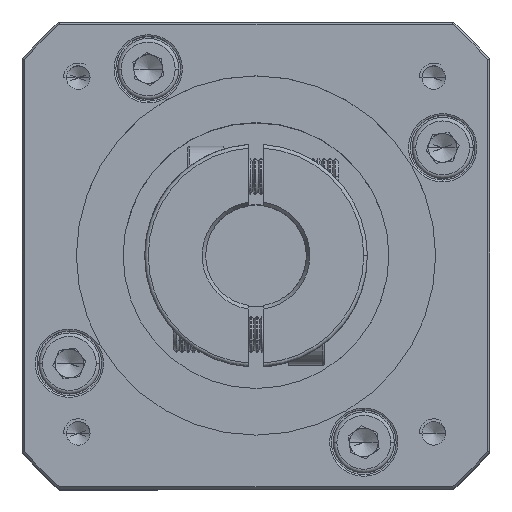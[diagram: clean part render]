
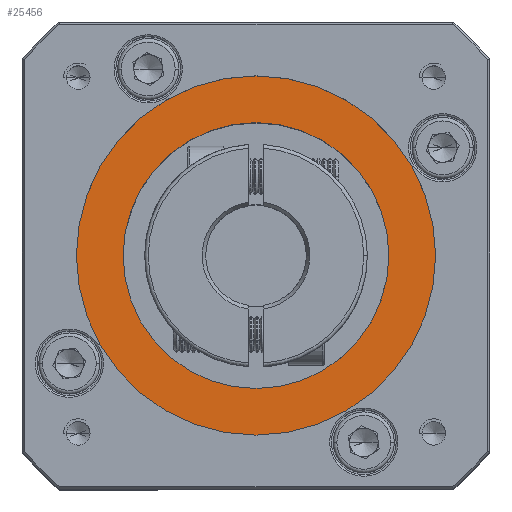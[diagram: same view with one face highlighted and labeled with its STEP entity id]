
A CAD part, top view. The second image highlights one B-rep face of the part: STEP entity #25456.
In plain terms, the highlighted planar face has unit normal (0, 0, 1).
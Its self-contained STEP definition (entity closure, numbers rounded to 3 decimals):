
#3818 = DIRECTION ( 'NONE',  ( 1., 0., 0. ) ) ;
#3939 = FACE_BOUND ( 'NONE', #79573, .T. ) ;
#5807 = VERTEX_POINT ( 'NONE', #75125 ) ;
#7873 = DIRECTION ( 'NONE',  ( 1., 0., 0. ) ) ;
#15227 = CIRCLE ( 'NONE', #38954, 25. ) ;
#19352 = DIRECTION ( 'NONE',  ( 0., 0., -1. ) ) ;
#20351 = EDGE_CURVE ( 'NONE', #5807, #53913, #27590, .T. ) ;
#25456 = ADVANCED_FACE ( 'NONE', ( #45073, #3939 ), #36142, .T. ) ;
#27590 = CIRCLE ( 'NONE', #71049, 18.5 ) ;
#33677 = VERTEX_POINT ( 'NONE', #48621 ) ;
#36062 = DIRECTION ( 'NONE',  ( 0., 0., -1. ) ) ;
#36142 = PLANE ( 'NONE',  #62368 ) ;
#38954 = AXIS2_PLACEMENT_3D ( 'NONE', #106247, #57124, #7873 ) ;
#40611 = ORIENTED_EDGE ( 'NONE', *, *, #20351, .T. ) ;
#41539 = ORIENTED_EDGE ( 'NONE', *, *, #105131, .T. ) ;
#43687 = DIRECTION ( 'NONE',  ( 0., 0., 1. ) ) ;
#45073 = FACE_OUTER_BOUND ( 'NONE', #93962, .T. ) ;
#48621 = CARTESIAN_POINT ( 'NONE',  ( 40.384, 13.876, 148.65 ) ) ;
#53027 = DIRECTION ( 'NONE',  ( 0., 0., 1. ) ) ;
#53913 = VERTEX_POINT ( 'NONE', #70907 ) ;
#54060 = CARTESIAN_POINT ( 'NONE',  ( -9.616, 13.876, 148.65 ) ) ;
#56695 = AXIS2_PLACEMENT_3D ( 'NONE', #92780, #43687, #101107 ) ;
#57124 = DIRECTION ( 'NONE',  ( 0., 0., 1. ) ) ;
#57513 = EDGE_CURVE ( 'NONE', #53913, #5807, #83032, .T. ) ;
#59107 = ORIENTED_EDGE ( 'NONE', *, *, #92338, .T. ) ;
#60614 = VERTEX_POINT ( 'NONE', #54060 ) ;
#62368 = AXIS2_PLACEMENT_3D ( 'NONE', #102149, #53027, #3818 ) ;
#65849 = CIRCLE ( 'NONE', #56695, 25. ) ;
#68545 = CARTESIAN_POINT ( 'NONE',  ( 15.384, 13.876, 148.65 ) ) ;
#70907 = CARTESIAN_POINT ( 'NONE',  ( 33.884, 13.876, 148.65 ) ) ;
#71049 = AXIS2_PLACEMENT_3D ( 'NONE', #85130, #36062, #93402 ) ;
#75125 = CARTESIAN_POINT ( 'NONE',  ( -3.116, 13.876, 148.65 ) ) ;
#76768 = DIRECTION ( 'NONE',  ( 1., 0., 0. ) ) ;
#79573 = EDGE_LOOP ( 'NONE', ( #94240, #40611 ) ) ;
#83032 = CIRCLE ( 'NONE', #101338, 18.5 ) ;
#85130 = CARTESIAN_POINT ( 'NONE',  ( 15.384, 13.876, 148.65 ) ) ;
#92338 = EDGE_CURVE ( 'NONE', #60614, #33677, #65849, .T. ) ;
#92780 = CARTESIAN_POINT ( 'NONE',  ( 15.384, 13.876, 148.65 ) ) ;
#93402 = DIRECTION ( 'NONE',  ( 1., 0., 0. ) ) ;
#93962 = EDGE_LOOP ( 'NONE', ( #41539, #59107 ) ) ;
#94240 = ORIENTED_EDGE ( 'NONE', *, *, #57513, .T. ) ;
#101107 = DIRECTION ( 'NONE',  ( 1., 0., 0. ) ) ;
#101338 = AXIS2_PLACEMENT_3D ( 'NONE', #68545, #19352, #76768 ) ;
#102149 = CARTESIAN_POINT ( 'NONE',  ( 15.384, 13.876, 148.65 ) ) ;
#105131 = EDGE_CURVE ( 'NONE', #33677, #60614, #15227, .T. ) ;
#106247 = CARTESIAN_POINT ( 'NONE',  ( 15.384, 13.876, 148.65 ) ) ;
